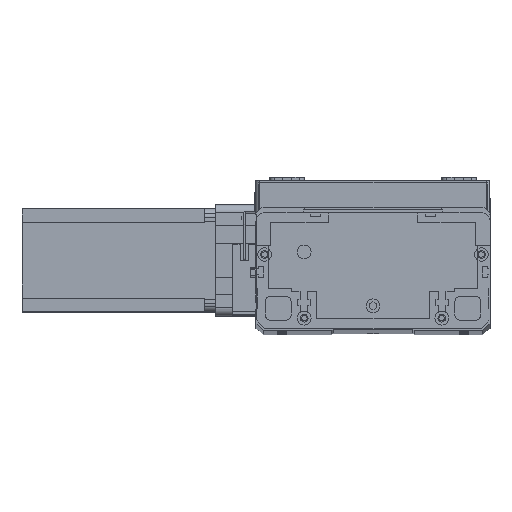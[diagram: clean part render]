
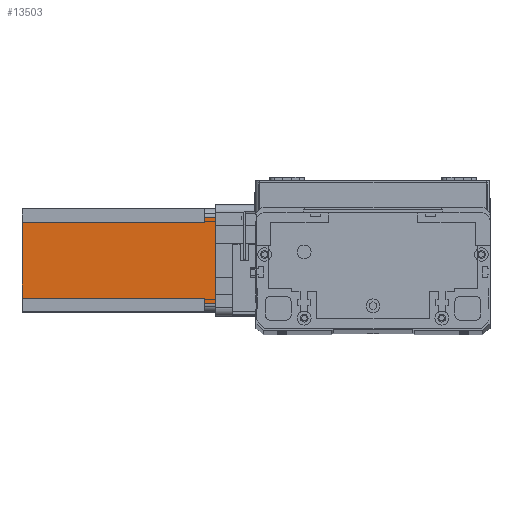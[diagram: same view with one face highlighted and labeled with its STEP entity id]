
A CAD part, top view. The second image highlights one B-rep face of the part: STEP entity #13503.
In plain terms, the highlighted planar face has unit normal (0, 0, 1) as drawn and (0, -1, 0) by its records, which use the part's own axes.
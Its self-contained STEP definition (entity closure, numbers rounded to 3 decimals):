
#245 = DIRECTION ( 'NONE',  ( 0., 0., -1. ) ) ;
#346 = ORIENTED_EDGE ( 'NONE', *, *, #18491, .F. ) ;
#469 = VECTOR ( 'NONE', #22106, 1000. ) ;
#559 = DIRECTION ( 'NONE',  ( 0., 0., 1. ) ) ;
#1031 = CARTESIAN_POINT ( 'NONE',  ( 0., 0., 0. ) ) ;
#1926 = DIRECTION ( 'NONE',  ( -1., 0., 0. ) ) ;
#4653 = ORIENTED_EDGE ( 'NONE', *, *, #17241, .T. ) ;
#5393 = LINE ( 'NONE', #6040, #15734 ) ;
#5736 = CARTESIAN_POINT ( 'NONE',  ( 0., 0., -112.5 ) ) ;
#6040 = CARTESIAN_POINT ( 'NONE',  ( 52., 0., -6.5 ) ) ;
#6590 = VERTEX_POINT ( 'NONE', #7936 ) ;
#7065 = VERTEX_POINT ( 'NONE', #12301 ) ;
#7095 = ORIENTED_EDGE ( 'NONE', *, *, #19271, .F. ) ;
#7113 = ORIENTED_EDGE ( 'NONE', *, *, #18755, .F. ) ;
#7838 = DIRECTION ( 'NONE',  ( 0., -1., 0. ) ) ;
#7936 = CARTESIAN_POINT ( 'NONE',  ( 5., 0., 0. ) ) ;
#7966 = VECTOR ( 'NONE', #19214, 1000. ) ;
#7994 = DIRECTION ( 'NONE',  ( 0., 0., -1. ) ) ;
#8168 = DIRECTION ( 'NONE',  ( 1., 0., 0. ) ) ;
#8207 = FACE_OUTER_BOUND ( 'NONE', #26158, .T. ) ;
#9270 = CARTESIAN_POINT ( 'NONE',  ( 52., 0., -112.5 ) ) ;
#9332 = LINE ( 'NONE', #1031, #24731 ) ;
#10205 = VECTOR ( 'NONE', #7994, 1000. ) ;
#10260 = VECTOR ( 'NONE', #1926, 1000. ) ;
#10473 = EDGE_CURVE ( 'NONE', #6590, #18391, #9332, .T. ) ;
#10992 = VERTEX_POINT ( 'NONE', #11210 ) ;
#11110 = VERTEX_POINT ( 'NONE', #21548 ) ;
#11210 = CARTESIAN_POINT ( 'NONE',  ( 52., 0., -6.5 ) ) ;
#11388 = VERTEX_POINT ( 'NONE', #20461 ) ;
#11918 = AXIS2_PLACEMENT_3D ( 'NONE', #5736, #7838, #22051 ) ;
#12133 = CARTESIAN_POINT ( 'NONE',  ( 0., 0., -112.5 ) ) ;
#12231 = VECTOR ( 'NONE', #245, 1000. ) ;
#12301 = CARTESIAN_POINT ( 'NONE',  ( 55., 0., -6.5 ) ) ;
#12547 = VERTEX_POINT ( 'NONE', #14687 ) ;
#13503 = ADVANCED_FACE ( 'NONE', ( #8207 ), #18064, .T. ) ;
#14264 = CARTESIAN_POINT ( 'NONE',  ( 52., 0., -112.5 ) ) ;
#14687 = CARTESIAN_POINT ( 'NONE',  ( 8., 0., -112.5 ) ) ;
#14732 = CARTESIAN_POINT ( 'NONE',  ( 5., 0., -112.5 ) ) ;
#14969 = LINE ( 'NONE', #14264, #10205 ) ;
#15669 = LINE ( 'NONE', #18395, #10260 ) ;
#15734 = VECTOR ( 'NONE', #8168, 1000. ) ;
#16311 = LINE ( 'NONE', #12133, #469 ) ;
#17241 = EDGE_CURVE ( 'NONE', #10992, #7065, #5393, .T. ) ;
#17250 = CARTESIAN_POINT ( 'NONE',  ( 55., 0., -112.5 ) ) ;
#17397 = ORIENTED_EDGE ( 'NONE', *, *, #17515, .T. ) ;
#17515 = EDGE_CURVE ( 'NONE', #7065, #18391, #19458, .T. ) ;
#17959 = EDGE_CURVE ( 'NONE', #6590, #11110, #24116, .T. ) ;
#18056 = CARTESIAN_POINT ( 'NONE',  ( 55., 0., 0. ) ) ;
#18064 = PLANE ( 'NONE',  #11918 ) ;
#18391 = VERTEX_POINT ( 'NONE', #18056 ) ;
#18395 = CARTESIAN_POINT ( 'NONE',  ( 8., 0., -6.5 ) ) ;
#18491 = EDGE_CURVE ( 'NONE', #11388, #11110, #15669, .T. ) ;
#18755 = EDGE_CURVE ( 'NONE', #12547, #11388, #25258, .T. ) ;
#19094 = EDGE_CURVE ( 'NONE', #12547, #22210, #16311, .T. ) ;
#19214 = DIRECTION ( 'NONE',  ( 0., 0., 1. ) ) ;
#19254 = ORIENTED_EDGE ( 'NONE', *, *, #19094, .T. ) ;
#19271 = EDGE_CURVE ( 'NONE', #10992, #22210, #14969, .T. ) ;
#19360 = ORIENTED_EDGE ( 'NONE', *, *, #17959, .T. ) ;
#19393 = VECTOR ( 'NONE', #559, 1000. ) ;
#19458 = LINE ( 'NONE', #17250, #7966 ) ;
#19589 = DIRECTION ( 'NONE',  ( 1., 0., 0. ) ) ;
#20461 = CARTESIAN_POINT ( 'NONE',  ( 8., 0., -6.5 ) ) ;
#21548 = CARTESIAN_POINT ( 'NONE',  ( 5., 0., -6.5 ) ) ;
#22051 = DIRECTION ( 'NONE',  ( 0., 0., -1. ) ) ;
#22106 = DIRECTION ( 'NONE',  ( 1., 0., 0. ) ) ;
#22157 = ORIENTED_EDGE ( 'NONE', *, *, #10473, .F. ) ;
#22210 = VERTEX_POINT ( 'NONE', #9270 ) ;
#23080 = CARTESIAN_POINT ( 'NONE',  ( 8., 0., -112.5 ) ) ;
#24116 = LINE ( 'NONE', #14732, #12231 ) ;
#24731 = VECTOR ( 'NONE', #19589, 1000. ) ;
#25258 = LINE ( 'NONE', #23080, #19393 ) ;
#26158 = EDGE_LOOP ( 'NONE', ( #4653, #17397, #22157, #19360, #346, #7113, #19254, #7095 ) ) ;
